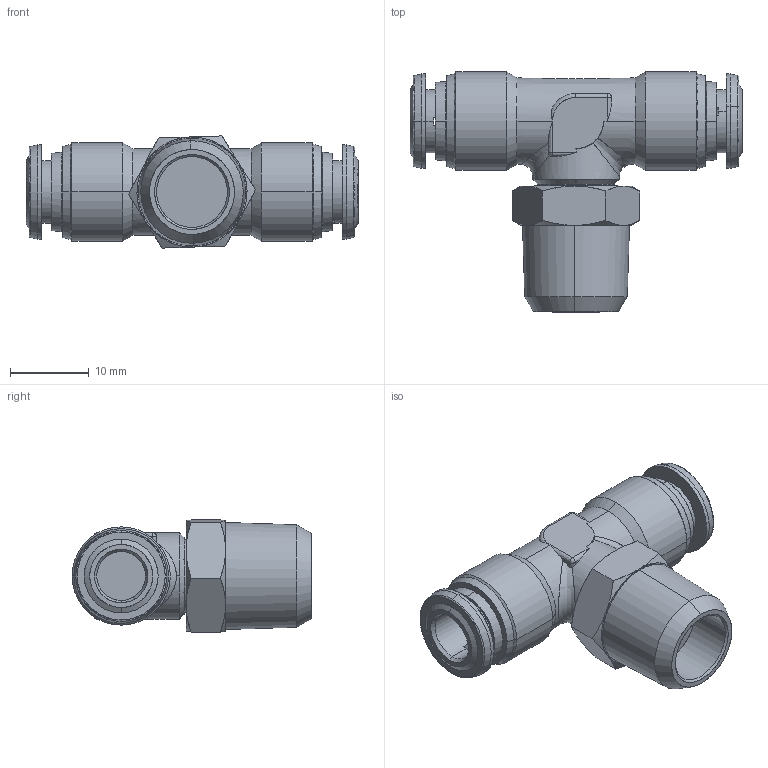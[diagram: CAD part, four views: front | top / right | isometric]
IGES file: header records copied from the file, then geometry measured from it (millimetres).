
Start section: SolidWorks IGES file using analytic representation for surfaces
Global section: file name: K:\Disegni Esecutivi\Serie 60000 inox 316\ASSIEMI_60000\60210\ASSIEMI_PIENI_60210\6021000004.IGS; native system: SolidWorks 2008; preprocessor: SolidWorks 2008; author: cad02; date: 080305.150557; units: millimetre
Bounding box: 42.2 x 30.5 x 14.26 mm (x, y, z)
Surface area: 3430.8 mm2 (no closed solid volume)
Topology: 0 solids, 0 shells, 170 faces, 2218 edges, 2213 vertices
Faces by surface type: revolution 103, bspline 67
